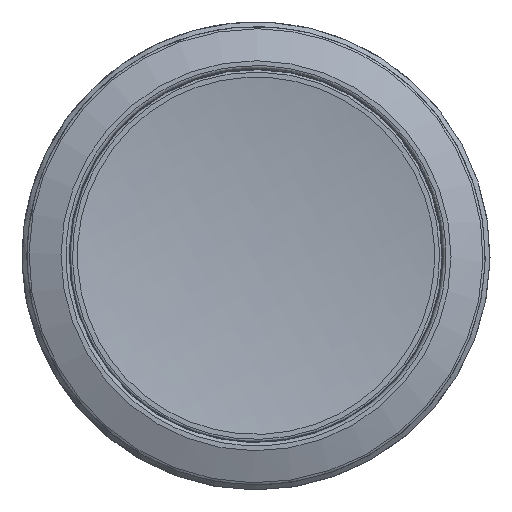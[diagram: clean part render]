
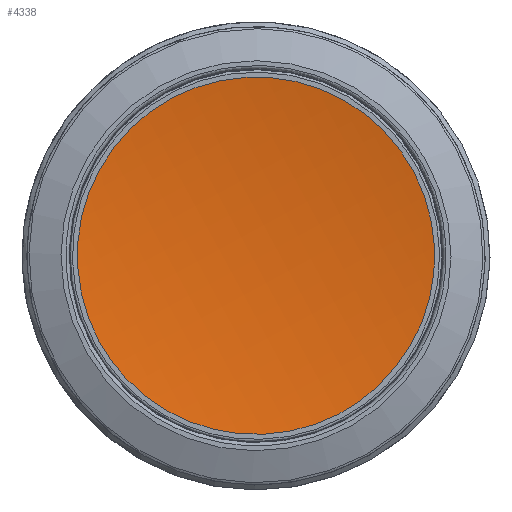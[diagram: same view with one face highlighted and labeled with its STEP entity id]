
A CAD part, top view. The second image highlights one B-rep face of the part: STEP entity #4338.
In plain terms, the highlighted face is a revolution surface.
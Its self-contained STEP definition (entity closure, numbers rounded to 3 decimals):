
#2794=FACE_OUTER_BOUND('',#5124,.T.);
#3920=B_SPLINE_CURVE_WITH_KNOTS('',3,(#11576,#11577,#11578,#11579,#11580,
#11581,#11582,#11583,#11584,#11585,#11586,#11587,#11588,#11589,#11590,#11591,
#11592,#11593),.UNSPECIFIED.,.T.,.F.,(2,2,2,2,2,2,2,2,2,2,2),(-0.125,0.,
0.125,0.25,0.375,0.5,0.625,0.75,0.875,1.,1.125),.UNSPECIFIED.);
#4338=ADVANCED_FACE('\\',(#2794),#4647,.T.);
#4647=SURFACE_OF_REVOLUTION('',#8847,#4662);
#4662=AXIS1_PLACEMENT('',#11600,#9918);
#5124=EDGE_LOOP('',(#5800));
#5800=ORIENTED_EDGE('',*,*,#8091,.F.);
#7436=VERTEX_POINT('',#11594);
#8091=EDGE_CURVE('',#7436,#7436,#3920,.T.);
#8847=(
BOUNDED_CURVE()
B_SPLINE_CURVE(3,(#11596,#11597,#11598,#11599),.UNSPECIFIED.,.F.,.F.)
B_SPLINE_CURVE_WITH_KNOTS((4,4),(0.,1.),.UNSPECIFIED.)
CURVE()
GEOMETRIC_REPRESENTATION_ITEM()
RATIONAL_B_SPLINE_CURVE((1.,0.993,0.993,1.))
REPRESENTATION_ITEM('')
);
#9918=DIRECTION('',(-0.878,-0.478,0.));
#11576=CARTESIAN_POINT('',(-8.272,-7.811,51.315));
#11577=CARTESIAN_POINT('',(-11.051,-2.706,51.315));
#11578=CARTESIAN_POINT('',(-11.363,0.361,51.315));
#11579=CARTESIAN_POINT('',(-9.738,5.866,51.315));
#11580=CARTESIAN_POINT('',(-7.784,8.285,51.315));
#11581=CARTESIAN_POINT('',(-2.746,11.031,51.315));
#11582=CARTESIAN_POINT('',(0.32,11.372,51.315));
#11583=CARTESIAN_POINT('',(5.891,9.733,51.315));
#11584=CARTESIAN_POINT('',(8.272,7.811,51.315));
#11585=CARTESIAN_POINT('',(11.051,2.706,51.315));
#11586=CARTESIAN_POINT('',(11.363,-0.361,51.315));
#11587=CARTESIAN_POINT('',(9.738,-5.866,51.315));
#11588=CARTESIAN_POINT('',(7.784,-8.285,51.315));
#11589=CARTESIAN_POINT('',(2.746,-11.031,51.315));
#11590=CARTESIAN_POINT('',(-0.32,-11.372,51.315));
#11591=CARTESIAN_POINT('',(-5.891,-9.733,51.315));
#11592=CARTESIAN_POINT('',(-8.272,-7.811,51.315));
#11593=CARTESIAN_POINT('',(-11.051,-2.706,51.315));
#11594=CARTESIAN_POINT('',(-9.662,-5.258,51.315));
#11596=CARTESIAN_POINT('',(26.175,-71.377,126.54));
#11597=CARTESIAN_POINT('',(33.192,-68.804,126.54));
#11598=CARTESIAN_POINT('',(39.757,-65.231,126.54));
#11599=CARTESIAN_POINT('',(45.728,-60.735,126.54));
#11600=CARTESIAN_POINT('',(0.,0.,126.54));
